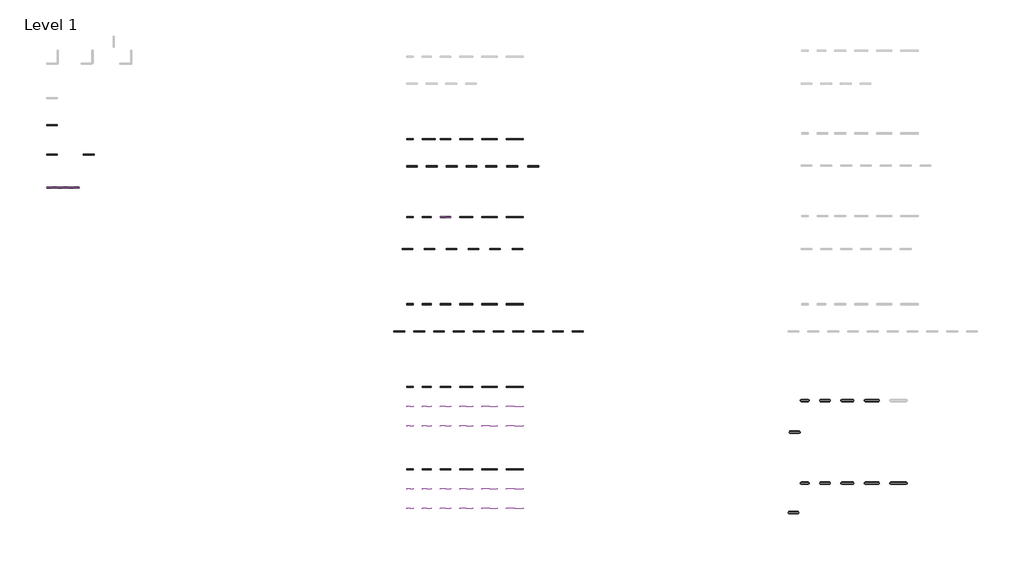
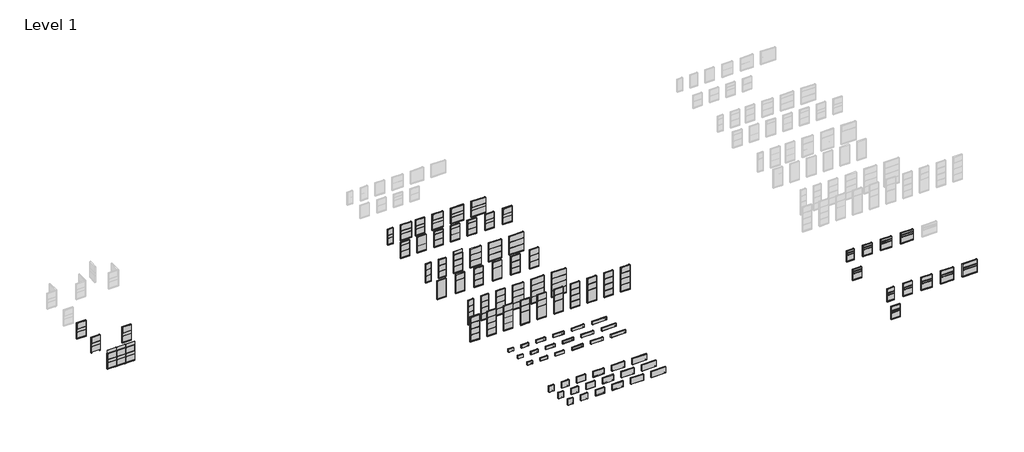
# One storey, part 1 of 3: 98 furniture elements.
"""IFC4 building model written with IfcOpenShell, lengths in millimetres."""

from ifc_helpers import new_model, si_unit, origin, place, context, project, spatial, transform, mapped, element, save
from components import furniture_18w_3ef3206a, furniture_18w_ba931313, furniture_18w_73e290f0, furniture_24w_cb8f0ce5, furniture_24w_862c8a6d, furniture_24w_bf8f6a09, furniture_24w_36258ad4, furniture_24w_bfdd7e8e, furniture_30w_8a918555, furniture_30w_4dcf9d6c, furniture_30w_0489fb91, furniture_30w_2a5376d1, furniture_30w_8d8b913a, furniture_30w_2213feb4, furniture_30w_0af04b80, furniture_30w_86e96df7, furniture_30w_1dd5c096, furniture_30w_b30efa1d, furniture_30w_fd134ff3, furniture_30w_3058daea, furniture_30w_125e9852, furniture_30w_e37f7533, furniture_30w_f457f4cf, furniture_30w_f705c2d0, furniture_30w_bd17a0e2, furniture_30w_e059d47c, furniture_30w_6bc390b5, furniture_30w_7e784fb6, furniture_30w_9d73bb02, furniture_30w_58f630c5, furniture_30w_621a038d, furniture_30w_5734a022, furniture_30w_fa20d450, furniture_30w_07766502, furniture_30w_8ceacf86, furniture_36w_9bbd0c79, furniture_36w_c04763b0, furniture_36w_d619b393, furniture_36w_2aa7a200, furniture_42w_9d11b314, furniture_42w_5b8a10ca, furniture_42w_0747c9ac, furniture_42w_71755c8c, furniture_42w_81b6d9b0, furniture_45h_panel_18w_48be69c5, furniture_45h_panel_18w_f21fc878, furniture_45h_panel_24w_ea8d109d, furniture_45h_panel_24w_b5cd555b, furniture_45h_panel_30w_a73b5204, furniture_45h_panel_30w_52134a44, furniture_45h_panel_36w_9c17e278, furniture_45h_panel_36w_f6e63f5c, furniture_45h_panel_42w_2c3968e3, furniture_45h_panel_42w_c844cb22, furniture_45h_panel_48w_b63159b6, furniture_45h_panel_48w_98b73698, furniture_48w_8e4140e2, furniture_48w_3bcd0fce, furniture_48w_534e3d43, furniture_48w_94457da2, furniture_55h_panel_18w_7551602b, furniture_55h_panel_18w_cc1202ba, furniture_55h_panel_24w_e449fae9, furniture_55h_panel_24w_ebb1f72d, furniture_55h_panel_30w_42c54c80, furniture_55h_panel_30w_c5a6d4be, furniture_55h_panel_30w_9cbc1048, furniture_55h_panel_36w_6225ec53, furniture_55h_panel_36w_ef72a5a2, furniture_55h_panel_42w_279f6cbd, furniture_55h_panel_42w_6255aaf3, furniture_55h_panel_48w_b752e680, furniture_55h_panel_48w_88a1e8aa, furniture_65h_panel_18w_b7cf43b6, furniture_65h_panel_18w_08090337, furniture_65h_panel_24w_a550eb89, furniture_65h_panel_24w_2fd4ee34, furniture_65h_panel_30w_7e91a9ee, furniture_65h_panel_30w_3ad38705, furniture_65h_panel_30w_e1906a29, furniture_65h_panel_36w_6e2446d7, furniture_65h_panel_36w_6930db79, furniture_65h_panel_42w_02b3bef2, furniture_65h_panel_42w_97e6850d, furniture_65h_panel_48w_835be630, furniture_65h_panel_48w_a92473b1

model = new_model("IFC4")

# Units and contexts
model_context = context("Model", 3, world=origin())
ifc_project = project(units=[si_unit("LENGTHUNIT", "METRE", prefix="MILLI")], contexts=[model_context])

# Site, building, storey
site = spatial("IfcSite", under=ifc_project)
building = spatial("IfcBuilding", under=site)
storey = spatial("IfcBuildingStorey", under=building, Name="Level 1", Elevation=0.0)

# Furniture
placement = place(None, origin())
furniture_18w_shape = furniture_18w_3ef3206a(model_context)
element("IfcFurniture", 1, ObjectType="Steelcase - Montage - Frame - 65H - Enhanced Monolithic - Base Cavity : 18W", at=placement, inside=storey, context=model_context, shape_type="MappedRepresentation", body=[
    mapped(furniture_18w_shape, transform((12176.3660688, -7846.7106775, 0.0), x_axis=(1.0, 0.0, 0.0), y_axis=(0.0, 1.0, 0.0), z_axis=(0.0, 0.0, 1.0))),
])
furniture_18w_2_shape = furniture_18w_ba931313(model_context)
element("IfcFurniture", 2, ObjectType="Steelcase - Montage - Frame - 86H - Enhanced Monolithic - Base Cavity : 18W", at=placement, inside=storey, context=model_context, shape_type="MappedRepresentation", body=[
    mapped(furniture_18w_2_shape, transform((12176.3660688, -13995.8588177, 0.0), x_axis=(1.0, 0.0, 0.0), y_axis=(0.0, 1.0, 0.0), z_axis=(0.0, 0.0, 1.0))),
])
furniture_18w_3_shape = furniture_18w_73e290f0(model_context)
element("IfcFurniture", 3, ObjectType="Steelcase - Montage - Frame - 55H - Enhanced Monolithic - Base Cavity : 18W", at=placement, inside=storey, context=model_context, shape_type="MappedRepresentation", body=[
    mapped(furniture_18w_3_shape, transform((12176.3660688, -2354.5136841, 0.0), x_axis=(1.0, 0.0, 0.0), y_axis=(0.0, 1.0, 0.0), z_axis=(0.0, 0.0, 1.0))),
])
furniture_24w_shape = furniture_24w_cb8f0ce5(model_context)
element("IfcFurniture", 4, ObjectType="Steelcase - Montage - Frame - 65H - Enhanced Monolithic - Base Cavity : 24W", at=placement, inside=storey, context=model_context, shape_type="MappedRepresentation", body=[
    mapped(furniture_24w_shape, transform((13268.5660688, -7846.7106775, 0.0), x_axis=(1.0, 0.0, 0.0), y_axis=(0.0, 1.0, 0.0), z_axis=(0.0, 0.0, 1.0))),
])
furniture_24w_2_shape = furniture_24w_862c8a6d(model_context)
element("IfcFurniture", 5, ObjectType="Steelcase - Montage - Frame - 45H - Enhanced Standard - Base and Desk-Height Cavity : 24W", at=placement, inside=storey, context=model_context, shape_type="MappedRepresentation", body=[
    mapped(furniture_24w_2_shape, transform((39886.0165559, -26602.4039514, 0.0), x_axis=(1.0, 0.0, 0.0), y_axis=(0.0, 1.0, 0.0), z_axis=(0.0, 0.0, 1.0))),
])
furniture_24w_3_shape = furniture_24w_bf8f6a09(model_context)
element("IfcFurniture", 6, ObjectType="Steelcase - Montage - Frame - 55H - Enhanced Monolithic - Base Cavity : 24W", at=placement, inside=storey, context=model_context, shape_type="MappedRepresentation", body=[
    mapped(furniture_24w_3_shape, transform((13268.5660688, -2354.5136841, 0.0), x_axis=(1.0, 0.0, 0.0), y_axis=(0.0, 1.0, 0.0), z_axis=(0.0, 0.0, 1.0))),
])
furniture_24w_4_shape = furniture_24w_36258ad4(model_context)
element("IfcFurniture", 7, ObjectType="Steelcase - Montage - Frame - 86H - Enhanced Monolithic - Base Cavity : 24W", at=placement, inside=storey, context=model_context, shape_type="MappedRepresentation", body=[
    mapped(furniture_24w_4_shape, transform((13268.5660688, -13995.8588177, 0.0), x_axis=(1.0, 0.0, 0.0), y_axis=(0.0, 1.0, 0.0), z_axis=(0.0, 0.0, 1.0))),
])
furniture_24w_5_shape = furniture_24w_bfdd7e8e(model_context)
element("IfcFurniture", 8, ObjectType="Steelcase - Montage - Frame - 38H - Enhanced Standard - Base and Desk-Height Cavity : 24W", at=placement, inside=storey, context=model_context, shape_type="MappedRepresentation", body=[
    mapped(furniture_24w_5_shape, transform((39886.0165559, -20781.7313845, 0.0), x_axis=(1.0, 0.0, 0.0), y_axis=(0.0, 1.0, 0.0), z_axis=(0.0, 0.0, 1.0))),
])
furniture_30w_shape = furniture_30w_8a918555(model_context)
element("IfcFurniture", 9, ObjectType="Steelcase - Montage - Frame - 65H - Enhanced Monolithic - Base Cavity : 30W", at=placement, inside=storey, context=model_context, shape_type="MappedRepresentation", body=[
    mapped(furniture_30w_shape, transform((14513.1660688, -7846.7106775, 0.0), x_axis=(1.0, 0.0, 0.0), y_axis=(0.0, 1.0, 0.0), z_axis=(0.0, 0.0, 1.0))),
])
element("IfcFurniture", 10, ObjectType="Steelcase - Montage - Frame - 65H - Enhanced Monolithic - Base Cavity : 30W", at=placement, inside=storey, context=model_context, shape_type="MappedRepresentation", body=[
    mapped(furniture_30w_shape, transform((19575.0270868, -10099.8098069, 0.0), x_axis=(1.0, 0.0, 0.0), y_axis=(0.0, 1.0, 0.0), z_axis=(0.0, 0.0, 1.0))),
])
furniture_30w_2_shape = furniture_30w_4dcf9d6c(model_context)
element("IfcFurniture", 11, ObjectType="Steelcase - Montage - Frame - 45H - Enhanced Standard - Base and Desk-Height Cavity : 30W", at=placement, inside=storey, context=model_context, shape_type="MappedRepresentation", body=[
    mapped(furniture_30w_2_shape, transform((41232.2165559, -26602.4039514, 0.0), x_axis=(1.0, 0.0, 0.0), y_axis=(0.0, 1.0, 0.0), z_axis=(0.0, 0.0, 1.0))),
])
element("IfcFurniture", 12, ObjectType="Steelcase - Montage - Frame - 45H - Enhanced Standard - Base and Desk-Height Cavity : 30W", at=placement, inside=storey, context=model_context, shape_type="MappedRepresentation", body=[
    mapped(furniture_30w_2_shape, transform((39015.8756695, -28691.0009447, 0.0), x_axis=(1.0, 0.0, 0.0), y_axis=(0.0, 1.0, 0.0), z_axis=(0.0, 0.0, 1.0))),
])
furniture_30w_3_shape = furniture_30w_0489fb91(model_context)
element("IfcFurniture", 13, ObjectType="Steelcase - Montage - Frame - 55H - Enhanced Monolithic - Base Cavity : 30W", at=placement, inside=storey, context=model_context, shape_type="MappedRepresentation", body=[
    mapped(furniture_30w_3_shape, transform((12144.4251783, -4272.682236, 0.0), x_axis=(1.0, 0.0, 0.0), y_axis=(0.0, 1.0, 0.0), z_axis=(0.0, 0.0, 1.0))),
])
furniture_30w_4_shape = furniture_30w_2a5376d1(model_context)
element("IfcFurniture", 14, ObjectType="Steelcase - Montage - Frame - 55H - Enhanced Monolithic - Base Cavity : 30W", at=placement, inside=storey, context=model_context, shape_type="MappedRepresentation", body=[
    mapped(furniture_30w_4_shape, transform((13541.4251783, -4272.682236, 0.0), x_axis=(1.0, 0.0, 0.0), y_axis=(0.0, 1.0, 0.0), z_axis=(0.0, 0.0, 1.0))),
])
furniture_30w_5_shape = furniture_30w_8d8b913a(model_context)
element("IfcFurniture", 15, ObjectType="Steelcase - Montage - Frame - 55H - Enhanced Monolithic - Base Cavity : 30W", at=placement, inside=storey, context=model_context, shape_type="MappedRepresentation", body=[
    mapped(furniture_30w_5_shape, transform((14938.4251783, -4272.682236, 0.0), x_axis=(1.0, 0.0, 0.0), y_axis=(0.0, 1.0, 0.0), z_axis=(0.0, 0.0, 1.0))),
])
furniture_30w_6_shape = furniture_30w_2213feb4(model_context)
element("IfcFurniture", 16, ObjectType="Steelcase - Montage - Frame - 55H - Enhanced Monolithic - Base Cavity : 30W", at=placement, inside=storey, context=model_context, shape_type="MappedRepresentation", body=[
    mapped(furniture_30w_6_shape, transform((16335.4251783, -4272.682236, 0.0), x_axis=(1.0, 0.0, 0.0), y_axis=(0.0, 1.0, 0.0), z_axis=(0.0, 0.0, 1.0))),
])
furniture_30w_7_shape = furniture_30w_0af04b80(model_context)
element("IfcFurniture", 17, ObjectType="Steelcase - Montage - Frame - 55H - Enhanced Monolithic - Base Cavity : 30W", at=placement, inside=storey, context=model_context, shape_type="MappedRepresentation", body=[
    mapped(furniture_30w_7_shape, transform((17732.4251783, -4272.682236, 0.0), x_axis=(1.0, 0.0, 0.0), y_axis=(0.0, 1.0, 0.0), z_axis=(0.0, 0.0, 1.0))),
])
furniture_30w_8_shape = furniture_30w_86e96df7(model_context)
element("IfcFurniture", 18, ObjectType="Steelcase - Montage - Frame - 55H - Enhanced Monolithic - Base Cavity : 30W", at=placement, inside=storey, context=model_context, shape_type="MappedRepresentation", body=[
    mapped(furniture_30w_8_shape, transform((-13206.5163433, -3440.292977, 0.0), x_axis=(1.0, 0.0, 0.0), y_axis=(0.0, 1.0, 0.0), z_axis=(0.0, 0.0, 1.0))),
])
furniture_30w_9_shape = furniture_30w_1dd5c096(model_context)
element("IfcFurniture", 19, ObjectType="Steelcase - Montage - Frame - 55H - Enhanced Monolithic - Base Cavity : 30W", at=placement, inside=storey, context=model_context, shape_type="MappedRepresentation", body=[
    mapped(furniture_30w_9_shape, transform((-13206.5163433, -5777.092977, 0.0), x_axis=(1.0, 0.0, 0.0), y_axis=(0.0, 1.0, 0.0), z_axis=(0.0, 0.0, 1.0))),
])
element("IfcFurniture", 20, ObjectType="Steelcase - Montage - Frame - 55H - Enhanced Monolithic - Base Cavity : 30W", at=placement, inside=storey, context=model_context, shape_type="MappedRepresentation", body=[
    mapped(furniture_30w_9_shape, transform((-12444.5163433, -5777.092977, 0.0), x_axis=(1.0, 0.0, 0.0), y_axis=(0.0, 1.0, 0.0), z_axis=(0.0, 0.0, 1.0))),
])
element("IfcFurniture", 21, ObjectType="Steelcase - Montage - Frame - 55H - Enhanced Monolithic - Base Cavity : 30W", at=placement, inside=storey, context=model_context, shape_type="MappedRepresentation", body=[
    mapped(furniture_30w_9_shape, transform((-11682.5163433, -5777.092977, 0.0), x_axis=(1.0, 0.0, 0.0), y_axis=(0.0, 1.0, 0.0), z_axis=(0.0, 0.0, 1.0))),
])
furniture_30w_10_shape = furniture_30w_b30efa1d(model_context)
element("IfcFurniture", 22, ObjectType="Steelcase - Montage - Frame - 55H - Enhanced Monolithic - Base Cavity : 30W", at=placement, inside=storey, context=model_context, shape_type="MappedRepresentation", body=[
    mapped(furniture_30w_10_shape, transform((19205.6251783, -4272.682236, 0.0), x_axis=(1.0, 0.0, 0.0), y_axis=(0.0, 1.0, 0.0), z_axis=(0.0, 0.0, 1.0))),
])
furniture_30w_11_shape = furniture_30w_fd134ff3(model_context)
element("IfcFurniture", 23, ObjectType="Steelcase - Montage - Frame - 65H - Enhanced Monolithic - Base Cavity : 30W", at=placement, inside=storey, context=model_context, shape_type="MappedRepresentation", body=[
    mapped(furniture_30w_11_shape, transform((11828.0270868, -10099.8098069, 0.0), x_axis=(1.0, 0.0, 0.0), y_axis=(0.0, 1.0, 0.0), z_axis=(0.0, 0.0, 1.0))),
])
furniture_30w_12_shape = furniture_30w_3058daea(model_context)
element("IfcFurniture", 24, ObjectType="Steelcase - Montage - Frame - 65H - Enhanced Monolithic - Base Cavity : 30W", at=placement, inside=storey, context=model_context, shape_type="MappedRepresentation", body=[
    mapped(furniture_30w_12_shape, transform((13377.4270868, -10099.8098069, 0.0), x_axis=(1.0, 0.0, 0.0), y_axis=(0.0, 1.0, 0.0), z_axis=(0.0, 0.0, 1.0))),
])
furniture_30w_13_shape = furniture_30w_125e9852(model_context)
element("IfcFurniture", 25, ObjectType="Steelcase - Montage - Frame - 65H - Enhanced Monolithic - Base Cavity : 30W", at=placement, inside=storey, context=model_context, shape_type="MappedRepresentation", body=[
    mapped(furniture_30w_13_shape, transform((14926.8270868, -10099.8098069, 0.0), x_axis=(1.0, 0.0, 0.0), y_axis=(0.0, 1.0, 0.0), z_axis=(0.0, 0.0, 1.0))),
])
furniture_30w_14_shape = furniture_30w_e37f7533(model_context)
element("IfcFurniture", 26, ObjectType="Steelcase - Montage - Frame - 65H - Enhanced Monolithic - Base Cavity : 30W", at=placement, inside=storey, context=model_context, shape_type="MappedRepresentation", body=[
    mapped(furniture_30w_14_shape, transform((16476.2270868, -10099.8098069, 0.0), x_axis=(1.0, 0.0, 0.0), y_axis=(0.0, 1.0, 0.0), z_axis=(0.0, 0.0, 1.0))),
])
furniture_30w_15_shape = furniture_30w_f457f4cf(model_context)
element("IfcFurniture", 27, ObjectType="Steelcase - Montage - Frame - 65H - Enhanced Monolithic - Base Cavity : 30W", at=placement, inside=storey, context=model_context, shape_type="MappedRepresentation", body=[
    mapped(furniture_30w_15_shape, transform((18000.2270868, -10099.8098069, 0.0), x_axis=(1.0, 0.0, 0.0), y_axis=(0.0, 1.0, 0.0), z_axis=(0.0, 0.0, 1.0))),
])
furniture_30w_16_shape = furniture_30w_f705c2d0(model_context)
element("IfcFurniture", 28, ObjectType="Steelcase - Montage - Frame - 86H - Enhanced Monolithic - Base Cavity : 30W", at=placement, inside=storey, context=model_context, shape_type="MappedRepresentation", body=[
    mapped(furniture_30w_16_shape, transform((14513.1660688, -13995.8588177, 0.0), x_axis=(1.0, 0.0, 0.0), y_axis=(0.0, 1.0, 0.0), z_axis=(0.0, 0.0, 1.0))),
])
element("IfcFurniture", 29, ObjectType="Steelcase - Montage - Frame - 86H - Enhanced Monolithic - Base Cavity : 30W", at=placement, inside=storey, context=model_context, shape_type="MappedRepresentation", body=[
    mapped(furniture_30w_16_shape, transform((12652.4251783, -15914.0273697, 0.0), x_axis=(1.0, 0.0, 0.0), y_axis=(0.0, 1.0, 0.0), z_axis=(0.0, 0.0, 1.0))),
])
furniture_30w_17_shape = furniture_30w_bd17a0e2(model_context)
element("IfcFurniture", 30, ObjectType="Steelcase - Montage - Frame - 86H - Enhanced Monolithic - Base Cavity : 30W", at=placement, inside=storey, context=model_context, shape_type="MappedRepresentation", body=[
    mapped(furniture_30w_17_shape, transform((14049.4251783, -15914.0273697, 0.0), x_axis=(1.0, 0.0, 0.0), y_axis=(0.0, 1.0, 0.0), z_axis=(0.0, 0.0, 1.0))),
])
furniture_30w_18_shape = furniture_30w_e059d47c(model_context)
element("IfcFurniture", 31, ObjectType="Steelcase - Montage - Frame - 86H - Enhanced Monolithic - Base Cavity : 30W", at=placement, inside=storey, context=model_context, shape_type="MappedRepresentation", body=[
    mapped(furniture_30w_18_shape, transform((15446.4251783, -15914.0273697, 0.0), x_axis=(1.0, 0.0, 0.0), y_axis=(0.0, 1.0, 0.0), z_axis=(0.0, 0.0, 1.0))),
])
furniture_30w_19_shape = furniture_30w_6bc390b5(model_context)
element("IfcFurniture", 32, ObjectType="Steelcase - Montage - Frame - 86H - Enhanced Monolithic - Base Cavity : 30W", at=placement, inside=storey, context=model_context, shape_type="MappedRepresentation", body=[
    mapped(furniture_30w_19_shape, transform((16843.4251783, -15914.0273697, 0.0), x_axis=(1.0, 0.0, 0.0), y_axis=(0.0, 1.0, 0.0), z_axis=(0.0, 0.0, 1.0))),
])
furniture_30w_20_shape = furniture_30w_7e784fb6(model_context)
element("IfcFurniture", 33, ObjectType="Steelcase - Montage - Frame - 86H - Enhanced Monolithic - Base Cavity : 30W", at=placement, inside=storey, context=model_context, shape_type="MappedRepresentation", body=[
    mapped(furniture_30w_20_shape, transform((18240.4251783, -15914.0273697, 0.0), x_axis=(1.0, 0.0, 0.0), y_axis=(0.0, 1.0, 0.0), z_axis=(0.0, 0.0, 1.0))),
])
furniture_30w_21_shape = furniture_30w_9d73bb02(model_context)
element("IfcFurniture", 34, ObjectType="Steelcase - Montage - Frame - 86H - Enhanced Monolithic - Base Cavity : 30W", at=placement, inside=storey, context=model_context, shape_type="MappedRepresentation", body=[
    mapped(furniture_30w_21_shape, transform((21034.4251783, -15914.0273697, 0.0), x_axis=(1.0, 0.0, 0.0), y_axis=(0.0, 1.0, 0.0), z_axis=(0.0, 0.0, 1.0))),
])
furniture_30w_22_shape = furniture_30w_58f630c5(model_context)
element("IfcFurniture", 35, ObjectType="Steelcase - Montage - Frame - 86H - Enhanced Monolithic - Base Cavity : 30W", at=placement, inside=storey, context=model_context, shape_type="MappedRepresentation", body=[
    mapped(furniture_30w_22_shape, transform((19637.4251783, -15914.0273697, 0.0), x_axis=(1.0, 0.0, 0.0), y_axis=(0.0, 1.0, 0.0), z_axis=(0.0, 0.0, 1.0))),
])
furniture_30w_23_shape = furniture_30w_621a038d(model_context)
element("IfcFurniture", 36, ObjectType="Steelcase - Montage - Frame - 86H - Enhanced Monolithic - Base Cavity : 30W", at=placement, inside=storey, context=model_context, shape_type="MappedRepresentation", body=[
    mapped(furniture_30w_23_shape, transform((22431.4251783, -15914.0273697, 0.0), x_axis=(1.0, 0.0, 0.0), y_axis=(0.0, 1.0, 0.0), z_axis=(0.0, 0.0, 1.0))),
])
furniture_30w_24_shape = furniture_30w_5734a022(model_context)
element("IfcFurniture", 37, ObjectType="Steelcase - Montage - Frame - 86H - Enhanced Monolithic - Base Cavity : 30W", at=placement, inside=storey, context=model_context, shape_type="MappedRepresentation", body=[
    mapped(furniture_30w_24_shape, transform((23828.4251783, -15914.0273697, 0.0), x_axis=(1.0, 0.0, 0.0), y_axis=(0.0, 1.0, 0.0), z_axis=(0.0, 0.0, 1.0))),
])
furniture_30w_25_shape = furniture_30w_fa20d450(model_context)
element("IfcFurniture", 38, ObjectType="Steelcase - Montage - Frame - 55H - Enhanced Monolithic - Base Cavity : 30W", at=placement, inside=storey, context=model_context, shape_type="MappedRepresentation", body=[
    mapped(furniture_30w_25_shape, transform((14513.1660688, -2354.5136841, 0.0), x_axis=(1.0, 0.0, 0.0), y_axis=(0.0, 1.0, 0.0), z_axis=(0.0, 0.0, 1.0))),
])
element("IfcFurniture", 39, ObjectType="Steelcase - Montage - Frame - 55H - Enhanced Monolithic - Base Cavity : 30W", at=placement, inside=storey, context=model_context, shape_type="MappedRepresentation", body=[
    mapped(furniture_30w_25_shape, transform((-10615.7163433, -3440.292977, 0.0), x_axis=(1.0, 0.0, 0.0), y_axis=(0.0, 1.0, 0.0), z_axis=(0.0, 0.0, 1.0))),
])
element("IfcFurniture", 40, ObjectType="Steelcase - Montage - Frame - 55H - Enhanced Monolithic - Base Cavity : 30W", at=placement, inside=storey, context=model_context, shape_type="MappedRepresentation", body=[
    mapped(furniture_30w_25_shape, transform((-13206.5163433, -1357.492977, 0.0), x_axis=(1.0, 0.0, 0.0), y_axis=(0.0, 1.0, 0.0), z_axis=(0.0, 0.0, 1.0))),
])
element("IfcFurniture", 41, ObjectType="Steelcase - Montage - Frame - 55H - Enhanced Monolithic - Base Cavity : 30W", at=placement, inside=storey, context=model_context, shape_type="MappedRepresentation", body=[
    mapped(furniture_30w_25_shape, transform((20691.3871175, -4272.682236, 0.0), x_axis=(1.0, 0.0, 0.0), y_axis=(0.0, 1.0, 0.0), z_axis=(0.0, 0.0, 1.0))),
])
furniture_30w_26_shape = furniture_30w_07766502(model_context)
element("IfcFurniture", 42, ObjectType="Steelcase - Montage - Frame - 86H - Enhanced Monolithic - Base Cavity : 30W", at=placement, inside=storey, context=model_context, shape_type="MappedRepresentation", body=[
    mapped(furniture_30w_26_shape, transform((11255.4251783, -15914.0273697, 0.0), x_axis=(1.0, 0.0, 0.0), y_axis=(0.0, 1.0, 0.0), z_axis=(0.0, 0.0, 1.0))),
])
furniture_30w_27_shape = furniture_30w_8ceacf86(model_context)
element("IfcFurniture", 43, ObjectType="Steelcase - Montage - Frame - 38H - Enhanced Standard - Base and Desk-Height Cavity : 30W", at=placement, inside=storey, context=model_context, shape_type="MappedRepresentation", body=[
    mapped(furniture_30w_27_shape, transform((41232.2165559, -20781.7313845, 0.0), x_axis=(1.0, 0.0, 0.0), y_axis=(0.0, 1.0, 0.0), z_axis=(0.0, 0.0, 1.0))),
])
element("IfcFurniture", 44, ObjectType="Steelcase - Montage - Frame - 38H - Enhanced Standard - Base and Desk-Height Cavity : 30W", at=placement, inside=storey, context=model_context, shape_type="MappedRepresentation", body=[
    mapped(furniture_30w_27_shape, transform((39092.9624218, -23022.7283779, 0.0), x_axis=(1.0, 0.0, 0.0), y_axis=(0.0, 1.0, 0.0), z_axis=(0.0, 0.0, 1.0))),
])
furniture_36w_shape = furniture_36w_9bbd0c79(model_context)
element("IfcFurniture", 45, ObjectType="Steelcase - Montage - Frame - 65H - Enhanced Monolithic - Base Cavity : 36W", at=placement, inside=storey, context=model_context, shape_type="MappedRepresentation", body=[
    mapped(furniture_36w_shape, transform((15910.1660688, -7846.7106775, 0.0), x_axis=(1.0, 0.0, 0.0), y_axis=(0.0, 1.0, 0.0), z_axis=(0.0, 0.0, 1.0))),
])
furniture_36w_2_shape = furniture_36w_c04763b0(model_context)
element("IfcFurniture", 46, ObjectType="Steelcase - Montage - Frame - 45H - Enhanced Standard - Base and Desk-Height Cavity : 36W", at=placement, inside=storey, context=model_context, shape_type="MappedRepresentation", body=[
    mapped(furniture_36w_2_shape, transform((42730.8165559, -26602.4039514, 0.0), x_axis=(1.0, 0.0, 0.0), y_axis=(0.0, 1.0, 0.0), z_axis=(0.0, 0.0, 1.0))),
])
element("IfcFurniture", 47, ObjectType="Steelcase - Montage - Frame - 55H - Enhanced Monolithic - Base Cavity : 36W", at=placement, inside=storey, context=model_context, shape_type="MappedRepresentation", body=[
    mapped(furniture_24w_3_shape, transform((15910.1660688, -2354.5136841, 0.0), x_axis=(1.0, 0.0, 0.0), y_axis=(0.0, 1.0, 0.0), z_axis=(0.0, 0.0, 1.0))),
])
furniture_36w_3_shape = furniture_36w_d619b393(model_context)
element("IfcFurniture", 48, ObjectType="Steelcase - Montage - Frame - 86H - Enhanced Monolithic - Base Cavity : 36W", at=placement, inside=storey, context=model_context, shape_type="MappedRepresentation", body=[
    mapped(furniture_36w_3_shape, transform((15910.1660688, -13995.8588177, 0.0), x_axis=(1.0, 0.0, 0.0), y_axis=(0.0, 1.0, 0.0), z_axis=(0.0, 0.0, 1.0))),
])
furniture_36w_4_shape = furniture_36w_2aa7a200(model_context)
element("IfcFurniture", 49, ObjectType="Steelcase - Montage - Frame - 38H - Enhanced Standard - Base and Desk-Height Cavity : 36W", at=placement, inside=storey, context=model_context, shape_type="MappedRepresentation", body=[
    mapped(furniture_36w_4_shape, transform((42730.8165559, -20781.7313845, 0.0), x_axis=(1.0, 0.0, 0.0), y_axis=(0.0, 1.0, 0.0), z_axis=(0.0, 0.0, 1.0))),
])
furniture_42w_shape = furniture_42w_9d11b314(model_context)
element("IfcFurniture", 50, ObjectType="Steelcase - Montage - Frame - 65H - Enhanced Monolithic - Base Cavity : 42W", at=placement, inside=storey, context=model_context, shape_type="MappedRepresentation", body=[
    mapped(furniture_42w_shape, transform((17459.5660688, -7846.7106775, 0.0), x_axis=(1.0, 0.0, 0.0), y_axis=(0.0, 1.0, 0.0), z_axis=(0.0, 0.0, 1.0))),
])
furniture_42w_2_shape = furniture_42w_5b8a10ca(model_context)
element("IfcFurniture", 51, ObjectType="Steelcase - Montage - Frame - 45H - Enhanced Standard - Base and Desk-Height Cavity : 42W", at=placement, inside=storey, context=model_context, shape_type="MappedRepresentation", body=[
    mapped(furniture_42w_2_shape, transform((44381.8165559, -26602.4039514, 0.0), x_axis=(1.0, 0.0, 0.0), y_axis=(0.0, 1.0, 0.0), z_axis=(0.0, 0.0, 1.0))),
])
furniture_42w_3_shape = furniture_42w_0747c9ac(model_context)
element("IfcFurniture", 52, ObjectType="Steelcase - Montage - Frame - 55H - Enhanced Monolithic - Base Cavity : 42W", at=placement, inside=storey, context=model_context, shape_type="MappedRepresentation", body=[
    mapped(furniture_42w_3_shape, transform((17459.5660688, -2354.5136841, 0.0), x_axis=(1.0, 0.0, 0.0), y_axis=(0.0, 1.0, 0.0), z_axis=(0.0, 0.0, 1.0))),
])
furniture_42w_4_shape = furniture_42w_71755c8c(model_context)
element("IfcFurniture", 53, ObjectType="Steelcase - Montage - Frame - 86H - Enhanced Monolithic - Base Cavity : 42W", at=placement, inside=storey, context=model_context, shape_type="MappedRepresentation", body=[
    mapped(furniture_42w_4_shape, transform((17459.5660688, -13995.8588177, 0.0), x_axis=(1.0, 0.0, 0.0), y_axis=(0.0, 1.0, 0.0), z_axis=(0.0, 0.0, 1.0))),
])
furniture_42w_5_shape = furniture_42w_81b6d9b0(model_context)
element("IfcFurniture", 54, ObjectType="Steelcase - Montage - Frame - 38H - Enhanced Standard - Base and Desk-Height Cavity : 42W", at=placement, inside=storey, context=model_context, shape_type="MappedRepresentation", body=[
    mapped(furniture_42w_5_shape, transform((44381.8165559, -20781.7313845, 0.0), x_axis=(1.0, 0.0, 0.0), y_axis=(0.0, 1.0, 0.0), z_axis=(0.0, 0.0, 1.0))),
])
furniture_45h_panel_18w_shape = furniture_45h_panel_18w_48be69c5(model_context)
element("IfcFurniture", 55, ObjectType="Steelcase - Montage - Frame - 10H - Enhanced Standard - Single Stack-On : 45H Panel - 18W", at=placement, inside=storey, context=model_context, shape_type="MappedRepresentation", body=[
    mapped(furniture_45h_panel_18w_shape, transform((12176.3660688, -19816.5313845, 0.0), x_axis=(1.0, 0.0, 0.0), y_axis=(0.0, 1.0, 0.0), z_axis=(0.0, 0.0, 1.0))),
])
furniture_45h_panel_18w_2_shape = furniture_45h_panel_18w_f21fc878(model_context)
element("IfcFurniture", 56, ObjectType="Steelcase - Montage - Frame - 20H - Enhanced Standard - Single Stack-On : 45H Panel - 18W", at=placement, inside=storey, context=model_context, shape_type="MappedRepresentation", body=[
    mapped(furniture_45h_panel_18w_2_shape, transform((12176.3660688, -25637.2039514, 0.0), x_axis=(1.0, 0.0, 0.0), y_axis=(0.0, 1.0, 0.0), z_axis=(0.0, 0.0, 1.0))),
])
furniture_45h_panel_24w_shape = furniture_45h_panel_24w_ea8d109d(model_context)
element("IfcFurniture", 57, ObjectType="Steelcase - Montage - Frame - 10H - Enhanced Standard - Single Stack-On : 45H Panel - 24W", at=placement, inside=storey, context=model_context, shape_type="MappedRepresentation", body=[
    mapped(furniture_45h_panel_24w_shape, transform((13268.5660688, -19816.5313845, 0.0), x_axis=(1.0, 0.0, 0.0), y_axis=(0.0, 1.0, 0.0), z_axis=(0.0, 0.0, 1.0))),
])
furniture_45h_panel_24w_2_shape = furniture_45h_panel_24w_b5cd555b(model_context)
element("IfcFurniture", 58, ObjectType="Steelcase - Montage - Frame - 20H - Enhanced Standard - Single Stack-On : 45H Panel - 24W", at=placement, inside=storey, context=model_context, shape_type="MappedRepresentation", body=[
    mapped(furniture_45h_panel_24w_2_shape, transform((13268.5660688, -25637.2039514, 0.0), x_axis=(1.0, 0.0, 0.0), y_axis=(0.0, 1.0, 0.0), z_axis=(0.0, 0.0, 1.0))),
])
furniture_45h_panel_30w_shape = furniture_45h_panel_30w_a73b5204(model_context)
element("IfcFurniture", 59, ObjectType="Steelcase - Montage - Frame - 10H - Enhanced Standard - Single Stack-On : 45H Panel - 30W", at=placement, inside=storey, context=model_context, shape_type="MappedRepresentation", body=[
    mapped(furniture_45h_panel_30w_shape, transform((14513.1660688, -19816.5313845, 0.0), x_axis=(1.0, 0.0, 0.0), y_axis=(0.0, 1.0, 0.0), z_axis=(0.0, 0.0, 1.0))),
])
furniture_45h_panel_30w_2_shape = furniture_45h_panel_30w_52134a44(model_context)
element("IfcFurniture", 60, ObjectType="Steelcase - Montage - Frame - 20H - Enhanced Standard - Single Stack-On : 45H Panel - 30W", at=placement, inside=storey, context=model_context, shape_type="MappedRepresentation", body=[
    mapped(furniture_45h_panel_30w_2_shape, transform((14513.1660688, -25637.2039514, 0.0), x_axis=(1.0, 0.0, 0.0), y_axis=(0.0, 1.0, 0.0), z_axis=(0.0, 0.0, 1.0))),
])
furniture_45h_panel_36w_shape = furniture_45h_panel_36w_9c17e278(model_context)
element("IfcFurniture", 61, ObjectType="Steelcase - Montage - Frame - 10H - Enhanced Standard - Single Stack-On : 45H Panel - 36W", at=placement, inside=storey, context=model_context, shape_type="MappedRepresentation", body=[
    mapped(furniture_45h_panel_36w_shape, transform((15910.1660688, -19816.5313845, 0.0), x_axis=(1.0, 0.0, 0.0), y_axis=(0.0, 1.0, 0.0), z_axis=(0.0, 0.0, 1.0))),
])
furniture_45h_panel_36w_2_shape = furniture_45h_panel_36w_f6e63f5c(model_context)
element("IfcFurniture", 62, ObjectType="Steelcase - Montage - Frame - 20H - Enhanced Standard - Single Stack-On : 45H Panel - 36W", at=placement, inside=storey, context=model_context, shape_type="MappedRepresentation", body=[
    mapped(furniture_45h_panel_36w_2_shape, transform((15910.1660688, -25637.2039514, 0.0), x_axis=(1.0, 0.0, 0.0), y_axis=(0.0, 1.0, 0.0), z_axis=(0.0, 0.0, 1.0))),
])
furniture_45h_panel_42w_shape = furniture_45h_panel_42w_2c3968e3(model_context)
element("IfcFurniture", 63, ObjectType="Steelcase - Montage - Frame - 10H - Enhanced Standard - Single Stack-On : 45H Panel - 42W", at=placement, inside=storey, context=model_context, shape_type="MappedRepresentation", body=[
    mapped(furniture_45h_panel_42w_shape, transform((17459.5660688, -19816.5313845, 0.0), x_axis=(1.0, 0.0, 0.0), y_axis=(0.0, 1.0, 0.0), z_axis=(0.0, 0.0, 1.0))),
])
furniture_45h_panel_42w_2_shape = furniture_45h_panel_42w_c844cb22(model_context)
element("IfcFurniture", 64, ObjectType="Steelcase - Montage - Frame - 20H - Enhanced Standard - Single Stack-On : 45H Panel - 42W", at=placement, inside=storey, context=model_context, shape_type="MappedRepresentation", body=[
    mapped(furniture_45h_panel_42w_2_shape, transform((17459.5660688, -25637.2039514, 0.0), x_axis=(1.0, 0.0, 0.0), y_axis=(0.0, 1.0, 0.0), z_axis=(0.0, 0.0, 1.0))),
])
furniture_45h_panel_48w_shape = furniture_45h_panel_48w_b63159b6(model_context)
element("IfcFurniture", 65, ObjectType="Steelcase - Montage - Frame - 10H - Enhanced Standard - Single Stack-On : 45H Panel - 48W", at=placement, inside=storey, context=model_context, shape_type="MappedRepresentation", body=[
    mapped(furniture_45h_panel_48w_shape, transform((19161.3660688, -19816.5313845, 0.0), x_axis=(1.0, 0.0, 0.0), y_axis=(0.0, 1.0, 0.0), z_axis=(0.0, 0.0, 1.0))),
])
furniture_45h_panel_48w_2_shape = furniture_45h_panel_48w_98b73698(model_context)
element("IfcFurniture", 66, ObjectType="Steelcase - Montage - Frame - 20H - Enhanced Standard - Single Stack-On : 45H Panel - 48W", at=placement, inside=storey, context=model_context, shape_type="MappedRepresentation", body=[
    mapped(furniture_45h_panel_48w_2_shape, transform((19161.3660688, -25637.2039514, 0.0), x_axis=(1.0, 0.0, 0.0), y_axis=(0.0, 1.0, 0.0), z_axis=(0.0, 0.0, 1.0))),
])
furniture_48w_shape = furniture_48w_8e4140e2(model_context)
element("IfcFurniture", 67, ObjectType="Steelcase - Montage - Frame - 65H - Enhanced Monolithic - Base Cavity : 48W", at=placement, inside=storey, context=model_context, shape_type="MappedRepresentation", body=[
    mapped(furniture_48w_shape, transform((19161.3660688, -7846.7106775, 0.0), x_axis=(1.0, 0.0, 0.0), y_axis=(0.0, 1.0, 0.0), z_axis=(0.0, 0.0, 1.0))),
])
furniture_48w_2_shape = furniture_48w_3bcd0fce(model_context)
element("IfcFurniture", 68, ObjectType="Steelcase - Montage - Frame - 45H - Enhanced Standard - Base and Desk-Height Cavity : 48W", at=placement, inside=storey, context=model_context, shape_type="MappedRepresentation", body=[
    mapped(furniture_48w_2_shape, transform((46185.2165559, -26602.4039514, 0.0), x_axis=(1.0, 0.0, 0.0), y_axis=(0.0, 1.0, 0.0), z_axis=(0.0, 0.0, 1.0))),
])
furniture_48w_3_shape = furniture_48w_534e3d43(model_context)
element("IfcFurniture", 69, ObjectType="Steelcase - Montage - Frame - 55H - Enhanced Monolithic - Base Cavity : 48W", at=placement, inside=storey, context=model_context, shape_type="MappedRepresentation", body=[
    mapped(furniture_48w_3_shape, transform((19161.3660688, -2354.5136841, 0.0), x_axis=(1.0, 0.0, 0.0), y_axis=(0.0, 1.0, 0.0), z_axis=(0.0, 0.0, 1.0))),
])
furniture_48w_4_shape = furniture_48w_94457da2(model_context)
element("IfcFurniture", 70, ObjectType="Steelcase - Montage - Frame - 86H - Enhanced Monolithic - Base Cavity : 48W", at=placement, inside=storey, context=model_context, shape_type="MappedRepresentation", body=[
    mapped(furniture_48w_4_shape, transform((19161.3660688, -13995.8588177, 0.0), x_axis=(1.0, 0.0, 0.0), y_axis=(0.0, 1.0, 0.0), z_axis=(0.0, 0.0, 1.0))),
])
furniture_55h_panel_18w_shape = furniture_55h_panel_18w_7551602b(model_context)
element("IfcFurniture", 71, ObjectType="Steelcase - Montage - Frame - 10H - Enhanced Standard - Single Stack-On : 55H Panel - 18W", at=placement, inside=storey, context=model_context, shape_type="MappedRepresentation", body=[
    mapped(furniture_55h_panel_18w_shape, transform((12176.3660688, -21188.1313845, 0.0), x_axis=(1.0, 0.0, 0.0), y_axis=(0.0, 1.0, 0.0), z_axis=(0.0, 0.0, 1.0))),
])
furniture_55h_panel_18w_2_shape = furniture_55h_panel_18w_cc1202ba(model_context)
element("IfcFurniture", 72, ObjectType="Steelcase - Montage - Frame - 20H - Enhanced Standard - Single Stack-On : 55H Panel - 18W", at=placement, inside=storey, context=model_context, shape_type="MappedRepresentation", body=[
    mapped(furniture_55h_panel_18w_2_shape, transform((12176.3660688, -27008.8039514, 0.0), x_axis=(1.0, 0.0, 0.0), y_axis=(0.0, 1.0, 0.0), z_axis=(0.0, 0.0, 1.0))),
])
furniture_55h_panel_24w_shape = furniture_55h_panel_24w_e449fae9(model_context)
element("IfcFurniture", 73, ObjectType="Steelcase - Montage - Frame - 10H - Enhanced Standard - Single Stack-On : 55H Panel - 24W", at=placement, inside=storey, context=model_context, shape_type="MappedRepresentation", body=[
    mapped(furniture_55h_panel_24w_shape, transform((13268.5660688, -21188.1313845, 0.0), x_axis=(1.0, 0.0, 0.0), y_axis=(0.0, 1.0, 0.0), z_axis=(0.0, 0.0, 1.0))),
])
furniture_55h_panel_24w_2_shape = furniture_55h_panel_24w_ebb1f72d(model_context)
element("IfcFurniture", 74, ObjectType="Steelcase - Montage - Frame - 20H - Enhanced Standard - Single Stack-On : 55H Panel - 24W", at=placement, inside=storey, context=model_context, shape_type="MappedRepresentation", body=[
    mapped(furniture_55h_panel_24w_2_shape, transform((13268.5660688, -27008.8039514, 0.0), x_axis=(1.0, 0.0, 0.0), y_axis=(0.0, 1.0, 0.0), z_axis=(0.0, 0.0, 1.0))),
])
furniture_55h_panel_30w_shape = furniture_55h_panel_30w_42c54c80(model_context)
element("IfcFurniture", 75, ObjectType="Steelcase - Montage - Tiles - 10H - Frameless Glass Stacker : 55H Panel - 30W", at=placement, inside=storey, context=model_context, shape_type="MappedRepresentation", body=[
    mapped(furniture_55h_panel_30w_shape, transform((-12444.5163433, -5777.092977, 0.0), x_axis=(1.0, 0.0, 0.0), y_axis=(0.0, 1.0, 0.0), z_axis=(0.0, 0.0, 1.0))),
])
element("IfcFurniture", 76, ObjectType="Steelcase - Montage - Tiles - 10H - Frameless Glass Stacker : 55H Panel - 30W", at=placement, inside=storey, context=model_context, shape_type="MappedRepresentation", body=[
    mapped(furniture_55h_panel_30w_shape, transform((-11682.5163433, -5777.092977, 0.0), x_axis=(1.0, 0.0, 0.0), y_axis=(0.0, 1.0, 0.0), z_axis=(0.0, 0.0, 1.0))),
])
element("IfcFurniture", 77, ObjectType="Steelcase - Montage - Tiles - 10H - Frameless Glass Stacker : 55H Panel - 30W", at=placement, inside=storey, context=model_context, shape_type="MappedRepresentation", body=[
    mapped(furniture_55h_panel_30w_shape, transform((-13206.5163433, -5777.092977, 0.0), x_axis=(1.0, 0.0, 0.0), y_axis=(0.0, 1.0, 0.0), z_axis=(0.0, 0.0, 1.0))),
])
furniture_55h_panel_30w_2_shape = furniture_55h_panel_30w_c5a6d4be(model_context)
element("IfcFurniture", 78, ObjectType="Steelcase - Montage - Frame - 10H - Enhanced Standard - Single Stack-On : 55H Panel - 30W", at=placement, inside=storey, context=model_context, shape_type="MappedRepresentation", body=[
    mapped(furniture_55h_panel_30w_2_shape, transform((14513.1660688, -21188.1313845, 0.0), x_axis=(1.0, 0.0, 0.0), y_axis=(0.0, 1.0, 0.0), z_axis=(0.0, 0.0, 1.0))),
])
furniture_55h_panel_30w_3_shape = furniture_55h_panel_30w_9cbc1048(model_context)
element("IfcFurniture", 79, ObjectType="Steelcase - Montage - Frame - 20H - Enhanced Standard - Single Stack-On : 55H Panel - 30W", at=placement, inside=storey, context=model_context, shape_type="MappedRepresentation", body=[
    mapped(furniture_55h_panel_30w_3_shape, transform((14513.1660688, -27008.8039514, 0.0), x_axis=(1.0, 0.0, 0.0), y_axis=(0.0, 1.0, 0.0), z_axis=(0.0, 0.0, 1.0))),
])
furniture_55h_panel_36w_shape = furniture_55h_panel_36w_6225ec53(model_context)
element("IfcFurniture", 80, ObjectType="Steelcase - Montage - Frame - 10H - Enhanced Standard - Single Stack-On : 55H Panel - 36W", at=placement, inside=storey, context=model_context, shape_type="MappedRepresentation", body=[
    mapped(furniture_55h_panel_36w_shape, transform((15910.1660688, -21188.1313845, 0.0), x_axis=(1.0, 0.0, 0.0), y_axis=(0.0, 1.0, 0.0), z_axis=(0.0, 0.0, 1.0))),
])
furniture_55h_panel_36w_2_shape = furniture_55h_panel_36w_ef72a5a2(model_context)
element("IfcFurniture", 81, ObjectType="Steelcase - Montage - Frame - 20H - Enhanced Standard - Single Stack-On : 55H Panel - 36W", at=placement, inside=storey, context=model_context, shape_type="MappedRepresentation", body=[
    mapped(furniture_55h_panel_36w_2_shape, transform((15910.1660688, -27008.8039514, 0.0), x_axis=(1.0, 0.0, 0.0), y_axis=(0.0, 1.0, 0.0), z_axis=(0.0, 0.0, 1.0))),
])
furniture_55h_panel_42w_shape = furniture_55h_panel_42w_279f6cbd(model_context)
element("IfcFurniture", 82, ObjectType="Steelcase - Montage - Frame - 10H - Enhanced Standard - Single Stack-On : 55H Panel - 42W", at=placement, inside=storey, context=model_context, shape_type="MappedRepresentation", body=[
    mapped(furniture_55h_panel_42w_shape, transform((17459.5660688, -21188.1313845, 0.0), x_axis=(1.0, 0.0, 0.0), y_axis=(0.0, 1.0, 0.0), z_axis=(0.0, 0.0, 1.0))),
])
furniture_55h_panel_42w_2_shape = furniture_55h_panel_42w_6255aaf3(model_context)
element("IfcFurniture", 83, ObjectType="Steelcase - Montage - Frame - 20H - Enhanced Standard - Single Stack-On : 55H Panel - 42W", at=placement, inside=storey, context=model_context, shape_type="MappedRepresentation", body=[
    mapped(furniture_55h_panel_42w_2_shape, transform((17459.5660688, -27008.8039514, 0.0), x_axis=(1.0, 0.0, 0.0), y_axis=(0.0, 1.0, 0.0), z_axis=(0.0, 0.0, 1.0))),
])
furniture_55h_panel_48w_shape = furniture_55h_panel_48w_b752e680(model_context)
element("IfcFurniture", 84, ObjectType="Steelcase - Montage - Frame - 10H - Enhanced Standard - Single Stack-On : 55H Panel - 48W", at=placement, inside=storey, context=model_context, shape_type="MappedRepresentation", body=[
    mapped(furniture_55h_panel_48w_shape, transform((19161.3660688, -21188.1313845, 0.0), x_axis=(1.0, 0.0, 0.0), y_axis=(0.0, 1.0, 0.0), z_axis=(0.0, 0.0, 1.0))),
])
furniture_55h_panel_48w_2_shape = furniture_55h_panel_48w_88a1e8aa(model_context)
element("IfcFurniture", 85, ObjectType="Steelcase - Montage - Frame - 20H - Enhanced Standard - Single Stack-On : 55H Panel - 48W", at=placement, inside=storey, context=model_context, shape_type="MappedRepresentation", body=[
    mapped(furniture_55h_panel_48w_2_shape, transform((19161.3660688, -27008.8039514, 0.0), x_axis=(1.0, 0.0, 0.0), y_axis=(0.0, 1.0, 0.0), z_axis=(0.0, 0.0, 1.0))),
])
furniture_65h_panel_18w_shape = furniture_65h_panel_18w_b7cf43b6(model_context)
element("IfcFurniture", 86, ObjectType="Steelcase - Montage - Frame - 10H - Enhanced Standard - Single Stack-On : 65H Panel - 18W", at=placement, inside=storey, context=model_context, shape_type="MappedRepresentation", body=[
    mapped(furniture_65h_panel_18w_shape, transform((12176.3660688, -22559.7313845, 0.0), x_axis=(1.0, 0.0, 0.0), y_axis=(0.0, 1.0, 0.0), z_axis=(0.0, 0.0, 1.0))),
])
furniture_65h_panel_18w_2_shape = furniture_65h_panel_18w_08090337(model_context)
element("IfcFurniture", 87, ObjectType="Steelcase - Montage - Frame - 20H - Enhanced Standard - Single Stack-On : 65H Panel - 18W", at=placement, inside=storey, context=model_context, shape_type="MappedRepresentation", body=[
    mapped(furniture_65h_panel_18w_2_shape, transform((12176.3660688, -28380.4039514, 0.0), x_axis=(1.0, 0.0, 0.0), y_axis=(0.0, 1.0, 0.0), z_axis=(0.0, 0.0, 1.0))),
])
furniture_65h_panel_24w_shape = furniture_65h_panel_24w_a550eb89(model_context)
element("IfcFurniture", 88, ObjectType="Steelcase - Montage - Frame - 10H - Enhanced Standard - Single Stack-On : 65H Panel - 24W", at=placement, inside=storey, context=model_context, shape_type="MappedRepresentation", body=[
    mapped(furniture_65h_panel_24w_shape, transform((13268.5660688, -22559.7313845, 0.0), x_axis=(1.0, 0.0, 0.0), y_axis=(0.0, 1.0, 0.0), z_axis=(0.0, 0.0, 1.0))),
])
furniture_65h_panel_24w_2_shape = furniture_65h_panel_24w_2fd4ee34(model_context)
element("IfcFurniture", 89, ObjectType="Steelcase - Montage - Frame - 20H - Enhanced Standard - Single Stack-On : 65H Panel - 24W", at=placement, inside=storey, context=model_context, shape_type="MappedRepresentation", body=[
    mapped(furniture_65h_panel_24w_2_shape, transform((13268.5660688, -28380.4039514, 0.0), x_axis=(1.0, 0.0, 0.0), y_axis=(0.0, 1.0, 0.0), z_axis=(0.0, 0.0, 1.0))),
])
furniture_65h_panel_30w_shape = furniture_65h_panel_30w_7e91a9ee(model_context)
element("IfcFurniture", 90, ObjectType="Steelcase - Montage - Tiles - 10H - Frameless Glass Stacker : 65H Panel - 30W", at=placement, inside=storey, context=model_context, shape_type="MappedRepresentation", body=[
    mapped(furniture_65h_panel_30w_shape, transform((14513.1660688, -7846.7106775, 0.0), x_axis=(1.0, 0.0, 0.0), y_axis=(0.0, 1.0, 0.0), z_axis=(0.0, 0.0, 1.0))),
])
furniture_65h_panel_30w_2_shape = furniture_65h_panel_30w_3ad38705(model_context)
element("IfcFurniture", 91, ObjectType="Steelcase - Montage - Frame - 10H - Enhanced Standard - Single Stack-On : 65H Panel - 30W", at=placement, inside=storey, context=model_context, shape_type="MappedRepresentation", body=[
    mapped(furniture_65h_panel_30w_2_shape, transform((14513.1660688, -22559.7313845, 0.0), x_axis=(1.0, 0.0, 0.0), y_axis=(0.0, 1.0, 0.0), z_axis=(0.0, 0.0, 1.0))),
])
furniture_65h_panel_30w_3_shape = furniture_65h_panel_30w_e1906a29(model_context)
element("IfcFurniture", 92, ObjectType="Steelcase - Montage - Frame - 20H - Enhanced Standard - Single Stack-On : 65H Panel - 30W", at=placement, inside=storey, context=model_context, shape_type="MappedRepresentation", body=[
    mapped(furniture_65h_panel_30w_3_shape, transform((14513.1660688, -28380.4039514, 0.0), x_axis=(1.0, 0.0, 0.0), y_axis=(0.0, 1.0, 0.0), z_axis=(0.0, 0.0, 1.0))),
])
furniture_65h_panel_36w_shape = furniture_65h_panel_36w_6e2446d7(model_context)
element("IfcFurniture", 93, ObjectType="Steelcase - Montage - Frame - 10H - Enhanced Standard - Single Stack-On : 65H Panel - 36W", at=placement, inside=storey, context=model_context, shape_type="MappedRepresentation", body=[
    mapped(furniture_65h_panel_36w_shape, transform((15910.1660688, -22559.7313845, 0.0), x_axis=(1.0, 0.0, 0.0), y_axis=(0.0, 1.0, 0.0), z_axis=(0.0, 0.0, 1.0))),
])
furniture_65h_panel_36w_2_shape = furniture_65h_panel_36w_6930db79(model_context)
element("IfcFurniture", 94, ObjectType="Steelcase - Montage - Frame - 20H - Enhanced Standard - Single Stack-On : 65H Panel - 36W", at=placement, inside=storey, context=model_context, shape_type="MappedRepresentation", body=[
    mapped(furniture_65h_panel_36w_2_shape, transform((15910.1660688, -28380.4039514, 0.0), x_axis=(1.0, 0.0, 0.0), y_axis=(0.0, 1.0, 0.0), z_axis=(0.0, 0.0, 1.0))),
])
furniture_65h_panel_42w_shape = furniture_65h_panel_42w_02b3bef2(model_context)
element("IfcFurniture", 95, ObjectType="Steelcase - Montage - Frame - 10H - Enhanced Standard - Single Stack-On : 65H Panel - 42W", at=placement, inside=storey, context=model_context, shape_type="MappedRepresentation", body=[
    mapped(furniture_65h_panel_42w_shape, transform((17459.5660688, -22559.7313845, 0.0), x_axis=(1.0, 0.0, 0.0), y_axis=(0.0, 1.0, 0.0), z_axis=(0.0, 0.0, 1.0))),
])
furniture_65h_panel_42w_2_shape = furniture_65h_panel_42w_97e6850d(model_context)
element("IfcFurniture", 96, ObjectType="Steelcase - Montage - Frame - 20H - Enhanced Standard - Single Stack-On : 65H Panel - 42W", at=placement, inside=storey, context=model_context, shape_type="MappedRepresentation", body=[
    mapped(furniture_65h_panel_42w_2_shape, transform((17459.5660688, -28380.4039514, 0.0), x_axis=(1.0, 0.0, 0.0), y_axis=(0.0, 1.0, 0.0), z_axis=(0.0, 0.0, 1.0))),
])
furniture_65h_panel_48w_shape = furniture_65h_panel_48w_835be630(model_context)
element("IfcFurniture", 97, ObjectType="Steelcase - Montage - Frame - 10H - Enhanced Standard - Single Stack-On : 65H Panel - 48W", at=placement, inside=storey, context=model_context, shape_type="MappedRepresentation", body=[
    mapped(furniture_65h_panel_48w_shape, transform((19161.3660688, -22559.7313845, 0.0), x_axis=(1.0, 0.0, 0.0), y_axis=(0.0, 1.0, 0.0), z_axis=(0.0, 0.0, 1.0))),
])
furniture_65h_panel_48w_2_shape = furniture_65h_panel_48w_a92473b1(model_context)
element("IfcFurniture", 98, ObjectType="Steelcase - Montage - Frame - 20H - Enhanced Standard - Single Stack-On : 65H Panel - 48W", at=placement, inside=storey, context=model_context, shape_type="MappedRepresentation", body=[
    mapped(furniture_65h_panel_48w_2_shape, transform((19161.3660688, -28380.4039514, 0.0), x_axis=(1.0, 0.0, 0.0), y_axis=(0.0, 1.0, 0.0), z_axis=(0.0, 0.0, 1.0))),
])

save(model, "model.ifc")
